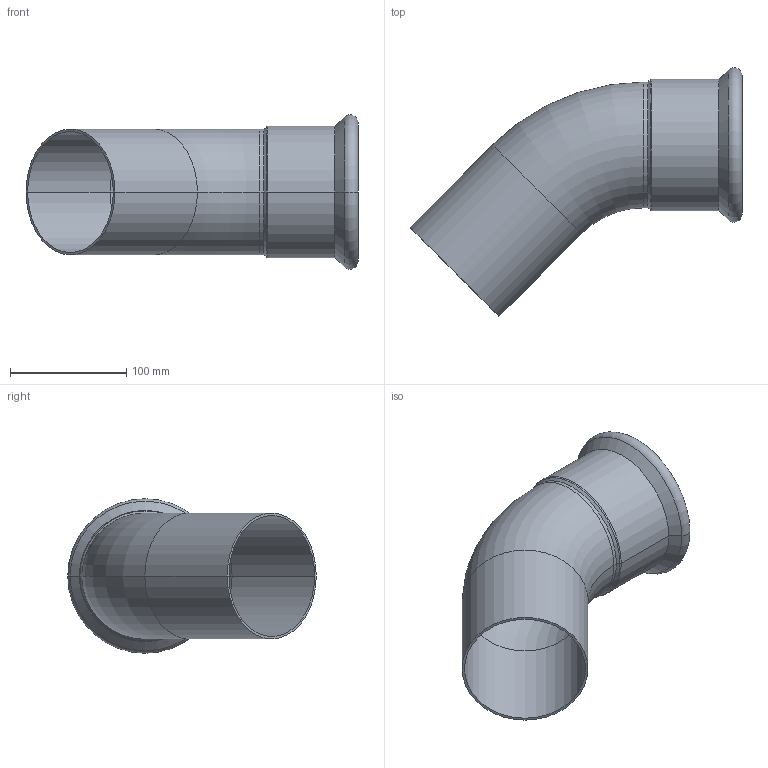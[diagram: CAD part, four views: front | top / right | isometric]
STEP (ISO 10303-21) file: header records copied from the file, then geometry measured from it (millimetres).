
FILE_DESCRIPTION(('OneSpaceDesigner STEP Export'),'2;1');
FILE_NAME('R2713 108x108.stp','2010-06-10T 8:34:32',(''),(''),'OneSpace Designer STEP processor for AP214 (Solid Model)','OneSpace Modeling 15.00A 14-Mar-2007 (C) CoCreate Software GmbH','');
FILE_SCHEMA(('AUTOMOTIVE_DESIGN { 1 0 10303 214 1 1 1 1 }'));
Length unit declared in the file: millimetre
Products named in the file (2): R2713_108x108
Assembly tree (1 placements, depth 2):
  R2713_108x108
    R2713_108x108
Bounding box: 285.08 x 213.37 x 132.58 mm (x, y, z)
Volume: 254940.1 mm3; surface area: 207996.6 mm2
Topology: 1 solids, 1 shells, 66 faces, 160 edges, 101 vertices
Faces by surface type: plane 31, cylinder 23, torus 8, cone 4
Entity records: 1721 total; most frequent: ORIENTED_EDGE 320, CARTESIAN_POINT 274, DIRECTION 253, EDGE_CURVE 160, VERTEX_POINT 101, VECTOR 93, LINE 93, AXIS2_PLACEMENT_3D 80
